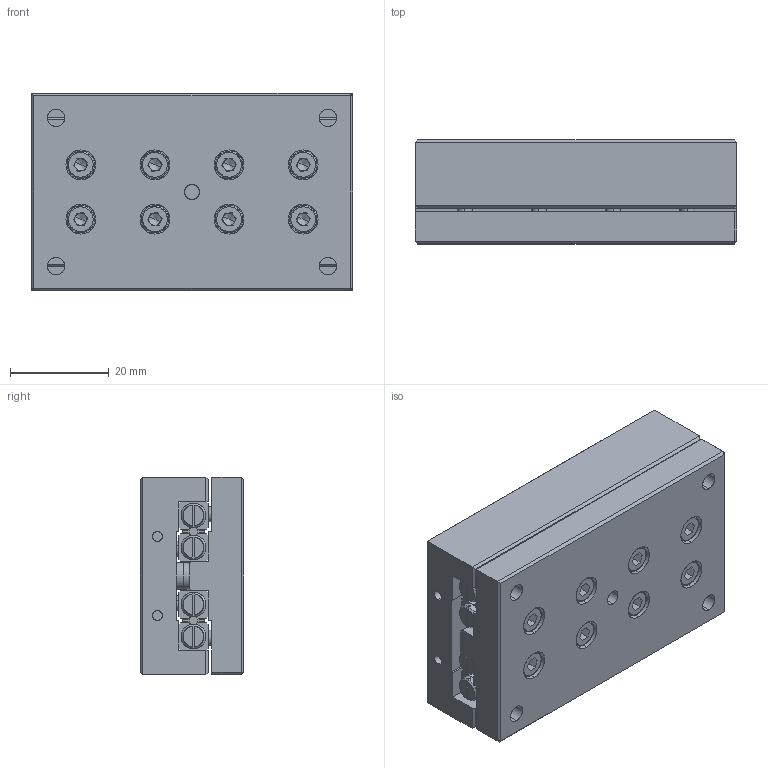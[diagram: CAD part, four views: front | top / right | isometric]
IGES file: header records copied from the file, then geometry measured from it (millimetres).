
Start section: SolidWorks IGES file using analytic representation for surfaces
Global section: file name: C:\Documents and Settings\IanO.IANOHOME\My Documents\Wix and Auto CAD Work\CAD Models\Parametric Models\Auto Models\L1020\L1020_IGES\L1020.040-065.igs; native system: SolidWorks 2009; preprocessor: SolidWorks 2009; author: IanO; date: 110922.162250; units: millimetre
Bounding box: 65 x 21 x 40 mm (x, y, z)
Surface area: 29892.4 mm2 (no closed solid volume)
Topology: 0 solids, 0 shells, 1233 faces, 15756 edges, 15716 vertices
Faces by surface type: bspline 777, revolution 456
